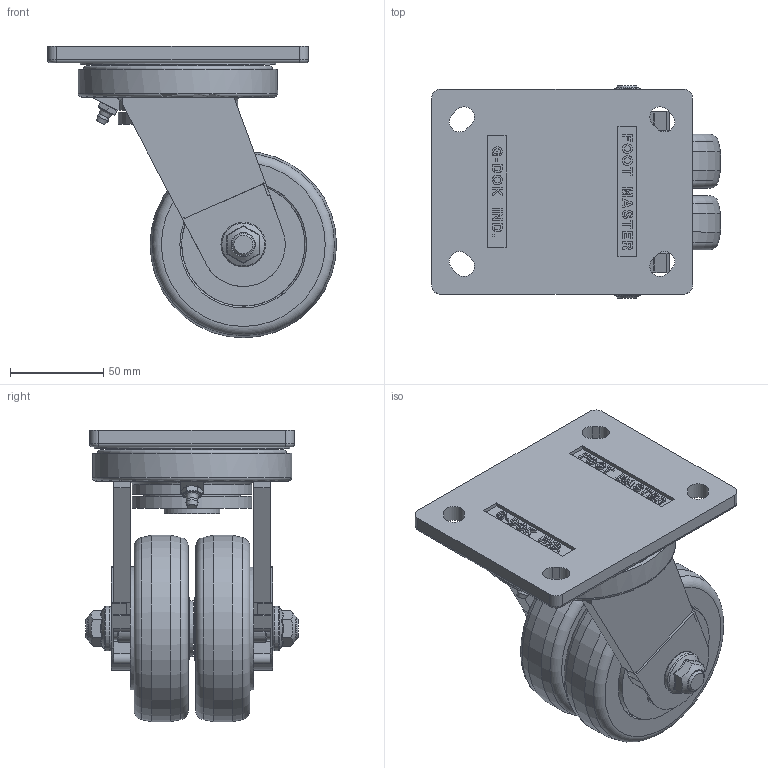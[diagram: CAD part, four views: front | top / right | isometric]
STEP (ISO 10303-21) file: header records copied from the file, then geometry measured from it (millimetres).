
FILE_DESCRIPTION((''),'2;1');
FILE_NAME('C:\Documents and Settings\Administrator\바탕 화면\3D STEP\GXTD-SERIES\GXTD-100\GXTD-100-SF.stp','2010-12-27T14:39:31',('Administrator'),(''),'Autodesk Inventor 2009','Autodesk Inventor 2009','');
FILE_SCHEMA(('AUTOMOTIVE_DESIGN { 1 0 10303 214 1 1 1 1 }'));
Length unit declared in the file: millimetre
Products named in the file (1): GXTD-100-SF
Bounding box: 155 x 114 x 156.35 mm (x, y, z)
Volume: 810031.6 mm3; surface area: 199137.3 mm2
Topology: 8 solids, 9 shells, 1025 faces, 2903 edges, 1897 vertices
Faces by surface type: plane 707, cylinder 138, sphere 79, bspline 40, torus 31, cone 30
Full cylindrical faces by diameter (mm): 5 x1, 12 x4, 12.2 x2, 15 x3, 15.2 x5, 15.3 x2, 18 x1, 19.952 x1, 21 x2, 21.667 x8, 24 x2, 28.333 x8, 30 x6, 34 x2, 35 x4, 36 x1, 37 x1, 43 x4, 46 x2, 48.4 x1, 50 x2, 52 x1, 55 x1, 61 x1, 62 x2, 64 x1, 66 x2, 68 x4, 90 x1, 95 x1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
Entity records: 35464 total; most frequent: CARTESIAN_POINT 10584, ORIENTED_EDGE 5028, DIRECTION 4927, EDGE_CURVE 2514, VECTOR 1765, LINE 1765, VERTEX_POINT 1747, AXIS2_PLACEMENT_3D 1581
